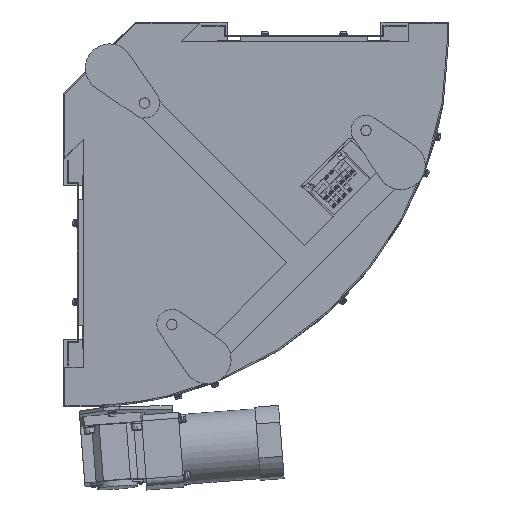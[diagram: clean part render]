
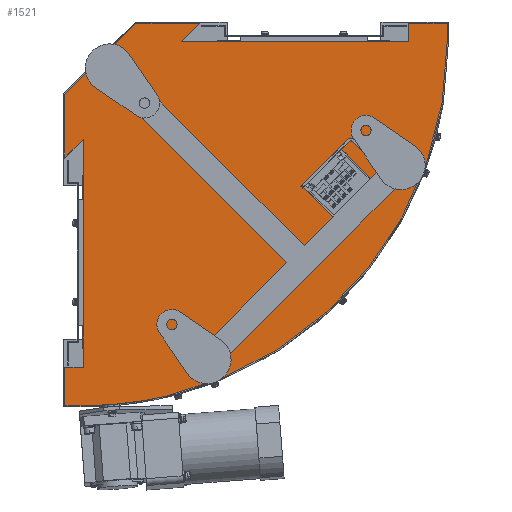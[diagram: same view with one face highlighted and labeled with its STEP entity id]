
A CAD part, front view. The second image highlights one B-rep face of the part: STEP entity #1521.
In plain terms, the highlighted planar face has unit normal (0, -1, 0).
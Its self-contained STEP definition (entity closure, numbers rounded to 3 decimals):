
#1521=ADVANCED_FACE('',(#4376),#4375,.F.);
#4375=PLANE('',#19721);
#4376=FACE_OUTER_BOUND('',#19722,.T.);
#19718=CARTESIAN_POINT('',(-33.4,-143.5,-191.5));
#19719=DIRECTION('',(0.,1.,0.));
#19720=DIRECTION('',(0.,0.,1.));
#19721=AXIS2_PLACEMENT_3D('',#19718,#19719,#19720);
#19722=EDGE_LOOP('',(#28572,#28573,#28574,#28575,#28576,#28577,#28578,#28579,#28580,#28581,#28582,#28583,#28584,#28585,#28586,#28587));
#28572=ORIENTED_EDGE('',*,*,#35846,.F.);
#28573=ORIENTED_EDGE('',*,*,#35852,.T.);
#28574=ORIENTED_EDGE('',*,*,#35853,.T.);
#28575=ORIENTED_EDGE('',*,*,#35854,.T.);
#28576=ORIENTED_EDGE('',*,*,#35755,.F.);
#28577=ORIENTED_EDGE('',*,*,#35757,.T.);
#28578=ORIENTED_EDGE('',*,*,#35855,.T.);
#28579=ORIENTED_EDGE('',*,*,#35856,.T.);
#28580=ORIENTED_EDGE('',*,*,#35857,.T.);
#28581=ORIENTED_EDGE('',*,*,#35858,.T.);
#28582=ORIENTED_EDGE('',*,*,#35849,.F.);
#28583=ORIENTED_EDGE('',*,*,#35836,.T.);
#28584=ORIENTED_EDGE('',*,*,#35859,.T.);
#28585=ORIENTED_EDGE('',*,*,#35860,.T.);
#28586=ORIENTED_EDGE('',*,*,#35861,.T.);
#28587=ORIENTED_EDGE('',*,*,#35840,.T.);
#35755=EDGE_CURVE('',#41368,#41355,#41369,.T.);
#35757=EDGE_CURVE('',#41368,#41328,#41381,.T.);
#35836=EDGE_CURVE('',#41914,#41907,#41915,.T.);
#35840=EDGE_CURVE('',#41887,#41935,#41942,.T.);
#35846=EDGE_CURVE('',#41981,#41935,#41982,.T.);
#35849=EDGE_CURVE('',#41914,#42001,#42002,.T.);
#35852=EDGE_CURVE('',#41981,#42021,#42022,.T.);
#35853=EDGE_CURVE('',#42021,#42028,#42029,.T.);
#35854=EDGE_CURVE('',#42028,#41355,#42035,.T.);
#35855=EDGE_CURVE('',#41328,#42041,#42042,.T.);
#35856=EDGE_CURVE('',#42041,#42048,#42049,.T.);
#35857=EDGE_CURVE('',#42048,#42055,#42056,.T.);
#35858=EDGE_CURVE('',#42055,#42001,#42062,.T.);
#35859=EDGE_CURVE('',#41907,#42068,#42069,.T.);
#35860=EDGE_CURVE('',#42068,#42075,#42076,.T.);
#35861=EDGE_CURVE('',#42075,#41887,#42082,.T.);
#41328=VERTEX_POINT('',#67198);
#41355=VERTEX_POINT('',#67213);
#41368=VERTEX_POINT('',#67220);
#41369=LINE('',#67221,#67222);
#41381=CIRCLE('',#67230,461.5);
#41887=VERTEX_POINT('',#67607);
#41907=VERTEX_POINT('',#67618);
#41914=VERTEX_POINT('',#67622);
#41915=LINE('',#67623,#67624);
#41935=VERTEX_POINT('',#67634);
#41942=LINE('',#67638,#67639);
#41981=VERTEX_POINT('',#67659);
#41982=LINE('',#67660,#67661);
#42001=VERTEX_POINT('',#67670);
#42002=LINE('',#67671,#67672);
#42021=VERTEX_POINT('',#67681);
#42022=LINE('',#67682,#67683);
#42028=VERTEX_POINT('',#67685);
#42029=LINE('',#67686,#67687);
#42035=LINE('',#67689,#67690);
#42041=VERTEX_POINT('',#67692);
#42042=CIRCLE('',#67696,461.5);
#42048=VERTEX_POINT('',#67697);
#42049=LINE('',#67698,#67699);
#42055=VERTEX_POINT('',#67701);
#42056=LINE('',#67702,#67703);
#42062=LINE('',#67705,#67706);
#42068=VERTEX_POINT('',#67708);
#42069=LINE('',#67709,#67710);
#42075=VERTEX_POINT('',#67712);
#42076=LINE('',#67713,#67714);
#42082=LINE('',#67716,#67717);
#67198=CARTESIAN_POINT('',(105.684,-143.5,-169.236));
#67213=CARTESIAN_POINT('',(-7.,-143.5,-181.5));
#67220=CARTESIAN_POINT('',(0.,-143.5,-181.5));
#67221=CARTESIAN_POINT('',(0.,-143.5,-181.5));
#67222=VECTOR('',#67223,7.);
#67223=DIRECTION('',(-1.,0.,0.));
#67227=CARTESIAN_POINT('',(0.,-143.5,280.));
#67228=DIRECTION('',(0.,-1.,0.));
#67229=DIRECTION('',(0.,0.,-1.));
#67230=AXIS2_PLACEMENT_3D('',#67227,#67228,#67229);
#67607=CARTESIAN_POINT('',(-23.4,-143.5,132.5));
#67618=CARTESIAN_POINT('',(147.5,-143.5,303.4));
#67622=CARTESIAN_POINT('',(124.1,-143.5,280.));
#67623=CARTESIAN_POINT('',(124.1,-143.5,280.));
#67624=VECTOR('',#67625,33.093);
#67625=DIRECTION('',(0.707,0.,0.707));
#67634=CARTESIAN_POINT('',(0.,-143.5,155.9));
#67638=CARTESIAN_POINT('',(-23.4,-143.5,132.5));
#67639=VECTOR('',#67640,33.093);
#67640=DIRECTION('',(0.707,0.,0.707));
#67659=CARTESIAN_POINT('',(0.,-143.5,-132.5));
#67660=CARTESIAN_POINT('',(0.,-143.5,-132.5));
#67661=VECTOR('',#67662,288.4);
#67662=DIRECTION('',(0.,0.,1.));
#67670=CARTESIAN_POINT('',(412.5,-143.5,280.));
#67671=CARTESIAN_POINT('',(124.1,-143.5,280.));
#67672=VECTOR('',#67673,288.4);
#67673=DIRECTION('',(1.,0.,0.));
#67681=CARTESIAN_POINT('',(-23.4,-143.5,-132.5));
#67682=CARTESIAN_POINT('',(0.,-143.5,-132.5));
#67683=VECTOR('',#67684,23.4);
#67684=DIRECTION('',(-1.,0.,0.));
#67685=CARTESIAN_POINT('',(-23.4,-143.5,-181.5));
#67686=CARTESIAN_POINT('',(-23.4,-143.5,-132.5));
#67687=VECTOR('',#67688,49.);
#67688=DIRECTION('',(0.,0.,-1.));
#67689=CARTESIAN_POINT('',(-23.4,-143.5,-181.5));
#67690=VECTOR('',#67691,16.4);
#67691=DIRECTION('',(1.,0.,0.));
#67692=CARTESIAN_POINT('',(461.5,-143.5,280.));
#67693=CARTESIAN_POINT('',(0.,-143.5,280.));
#67694=DIRECTION('',(0.,-1.,0.));
#67695=DIRECTION('',(0.,0.,-1.));
#67696=AXIS2_PLACEMENT_3D('',#67693,#67694,#67695);
#67697=CARTESIAN_POINT('',(461.5,-143.5,303.4));
#67698=CARTESIAN_POINT('',(461.5,-143.5,280.));
#67699=VECTOR('',#67700,23.4);
#67700=DIRECTION('',(0.,0.,1.));
#67701=CARTESIAN_POINT('',(412.5,-143.5,303.4));
#67702=CARTESIAN_POINT('',(461.5,-143.5,303.4));
#67703=VECTOR('',#67704,49.);
#67704=DIRECTION('',(-1.,0.,0.));
#67705=CARTESIAN_POINT('',(412.5,-143.5,303.4));
#67706=VECTOR('',#67707,23.4);
#67707=DIRECTION('',(0.,0.,-1.));
#67708=CARTESIAN_POINT('',(66.663,-143.5,303.4));
#67709=CARTESIAN_POINT('',(147.5,-143.5,303.4));
#67710=VECTOR('',#67711,80.837);
#67711=DIRECTION('',(-1.,0.,0.));
#67712=CARTESIAN_POINT('',(-23.4,-143.5,213.337));
#67713=CARTESIAN_POINT('',(66.663,-143.5,303.4));
#67714=VECTOR('',#67715,127.368);
#67715=DIRECTION('',(-0.707,0.,-0.707));
#67716=CARTESIAN_POINT('',(-23.4,-143.5,213.337));
#67717=VECTOR('',#67718,80.837);
#67718=DIRECTION('',(0.,0.,-1.));
